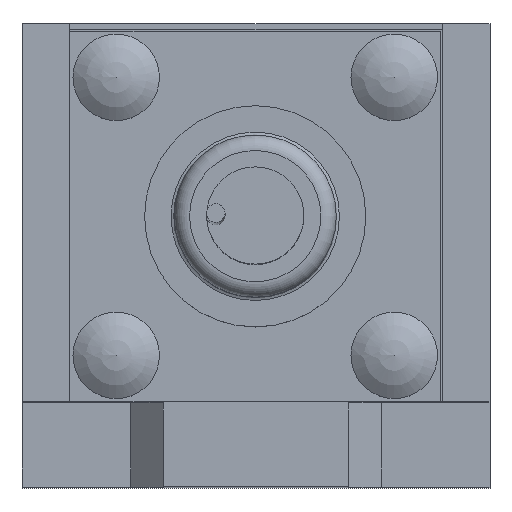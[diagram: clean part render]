
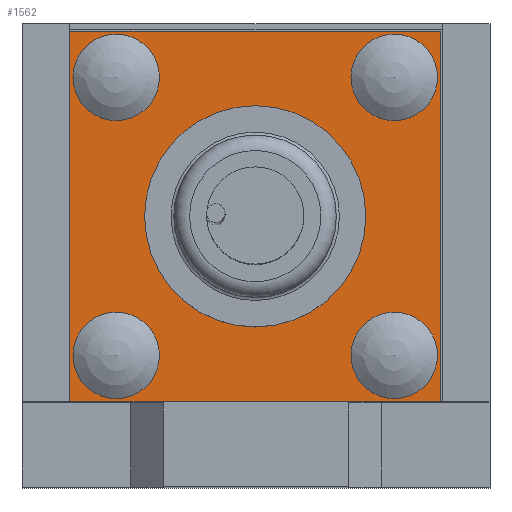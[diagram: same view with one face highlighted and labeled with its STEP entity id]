
A CAD part, top view. The second image highlights one B-rep face of the part: STEP entity #1562.
In plain terms, the highlighted planar face has unit normal (0, 0, 1).
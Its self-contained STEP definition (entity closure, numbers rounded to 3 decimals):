
#1354=CARTESIAN_POINT('',(-6.5,9.,0.));
#1355=VERTEX_POINT('',#1354);
#1356=CARTESIAN_POINT('',(-9.0,9.,0.0));
#1357=DIRECTION('',(0.0,0.0,1.0));
#1358=DIRECTION('',(-1.0,0.0,0.0));
#1359=AXIS2_PLACEMENT_3D('',#1356,#1357,#1358);
#1360=CIRCLE('',#1359,2.5);
#1361=EDGE_CURVE('',#1355,#1355,#1360,.T.);
#1411=CARTESIAN_POINT('',(11.5,9.,0.));
#1412=VERTEX_POINT('',#1411);
#1413=CARTESIAN_POINT('',(9.,9.,0.0));
#1414=DIRECTION('',(0.0,0.0,1.0));
#1415=DIRECTION('',(-1.0,0.0,0.0));
#1416=AXIS2_PLACEMENT_3D('',#1413,#1414,#1415);
#1417=CIRCLE('',#1416,2.5);
#1418=EDGE_CURVE('',#1412,#1412,#1417,.T.);
#1468=CARTESIAN_POINT('',(-6.5,-9.,0.));
#1469=VERTEX_POINT('',#1468);
#1470=CARTESIAN_POINT('',(-9.,-9.,0.0));
#1471=DIRECTION('',(0.0,0.0,1.0));
#1472=DIRECTION('',(-1.0,0.0,0.0));
#1473=AXIS2_PLACEMENT_3D('',#1470,#1471,#1472);
#1474=CIRCLE('',#1473,2.5);
#1475=EDGE_CURVE('',#1469,#1469,#1474,.T.);
#1492=CARTESIAN_POINT('',(0.0,0.,0.0));
#1493=DIRECTION('',(0.0,0.0,1.0));
#1494=DIRECTION('',(1.0,0.0,0.0));
#1495=AXIS2_PLACEMENT_3D('',#1492,#1493,#1494);
#1496=PLANE('',#1495);
#1497=CARTESIAN_POINT('',(-12.,-12.,0.0));
#1498=VERTEX_POINT('',#1497);
#1499=CARTESIAN_POINT('',(12.,-12.,0.0));
#1500=VERTEX_POINT('',#1499);
#1501=CARTESIAN_POINT('',(-12.,-12.,0.0));
#1502=DIRECTION('',(1.0,0.0,0.0));
#1503=VECTOR('',#1502,24.);
#1504=LINE('',#1501,#1503);
#1505=EDGE_CURVE('',#1498,#1500,#1504,.T.);
#1506=ORIENTED_EDGE('',*,*,#1505,.T.);
#1507=CARTESIAN_POINT('',(12.,12.,0.0));
#1508=VERTEX_POINT('',#1507);
#1509=CARTESIAN_POINT('',(12.,-12.,0.0));
#1510=DIRECTION('',(0.0,1.0,0.0));
#1511=VECTOR('',#1510,24.);
#1512=LINE('',#1509,#1511);
#1513=EDGE_CURVE('',#1500,#1508,#1512,.T.);
#1514=ORIENTED_EDGE('',*,*,#1513,.T.);
#1515=CARTESIAN_POINT('',(-12.,12.,0.0));
#1516=VERTEX_POINT('',#1515);
#1517=CARTESIAN_POINT('',(12.,12.,0.0));
#1518=DIRECTION('',(-1.0,0.0,0.0));
#1519=VECTOR('',#1518,24.);
#1520=LINE('',#1517,#1519);
#1521=EDGE_CURVE('',#1508,#1516,#1520,.T.);
#1522=ORIENTED_EDGE('',*,*,#1521,.T.);
#1523=CARTESIAN_POINT('',(-12.,12.,0.0));
#1524=DIRECTION('',(0.0,-1.0,0.0));
#1525=VECTOR('',#1524,24.);
#1526=LINE('',#1523,#1525);
#1527=EDGE_CURVE('',#1516,#1498,#1526,.T.);
#1528=ORIENTED_EDGE('',*,*,#1527,.T.);
#1529=EDGE_LOOP('',(#1506,#1514,#1522,#1528));
#1530=FACE_OUTER_BOUND('',#1529,.T.);
#1531=CARTESIAN_POINT('',(11.5,-9.,0.));
#1532=VERTEX_POINT('',#1531);
#1533=CARTESIAN_POINT('',(9.,-9.,0.0));
#1534=DIRECTION('',(0.0,0.0,1.0));
#1535=DIRECTION('',(-1.0,0.0,0.0));
#1536=AXIS2_PLACEMENT_3D('',#1533,#1534,#1535);
#1537=CIRCLE('',#1536,2.5);
#1538=EDGE_CURVE('',#1532,#1532,#1537,.T.);
#1539=ORIENTED_EDGE('',*,*,#1538,.F.);
#1540=EDGE_LOOP('',(#1539));
#1541=FACE_BOUND('',#1540,.T.);
#1542=CARTESIAN_POINT('',(0.0,7.163,0.));
#1543=VERTEX_POINT('',#1542);
#1544=CARTESIAN_POINT('',(0.0,0.,0.0));
#1545=DIRECTION('',(0.0,0.0,-1.0));
#1546=DIRECTION('',(0.0,1.0,0.0));
#1547=AXIS2_PLACEMENT_3D('',#1544,#1545,#1546);
#1548=CIRCLE('',#1547,7.163);
#1549=EDGE_CURVE('',#1543,#1543,#1548,.T.);
#1550=ORIENTED_EDGE('',*,*,#1549,.T.);
#1551=EDGE_LOOP('',(#1550));
#1552=FACE_BOUND('',#1551,.T.);
#1553=ORIENTED_EDGE('',*,*,#1475,.F.);
#1554=EDGE_LOOP('',(#1553));
#1555=FACE_BOUND('',#1554,.T.);
#1556=ORIENTED_EDGE('',*,*,#1418,.F.);
#1557=EDGE_LOOP('',(#1556));
#1558=FACE_BOUND('',#1557,.T.);
#1559=ORIENTED_EDGE('',*,*,#1361,.F.);
#1560=EDGE_LOOP('',(#1559));
#1561=FACE_BOUND('',#1560,.T.);
#1562=ADVANCED_FACE('',(#1530,#1541,#1552,#1555,#1558,#1561),#1496,.T.);
